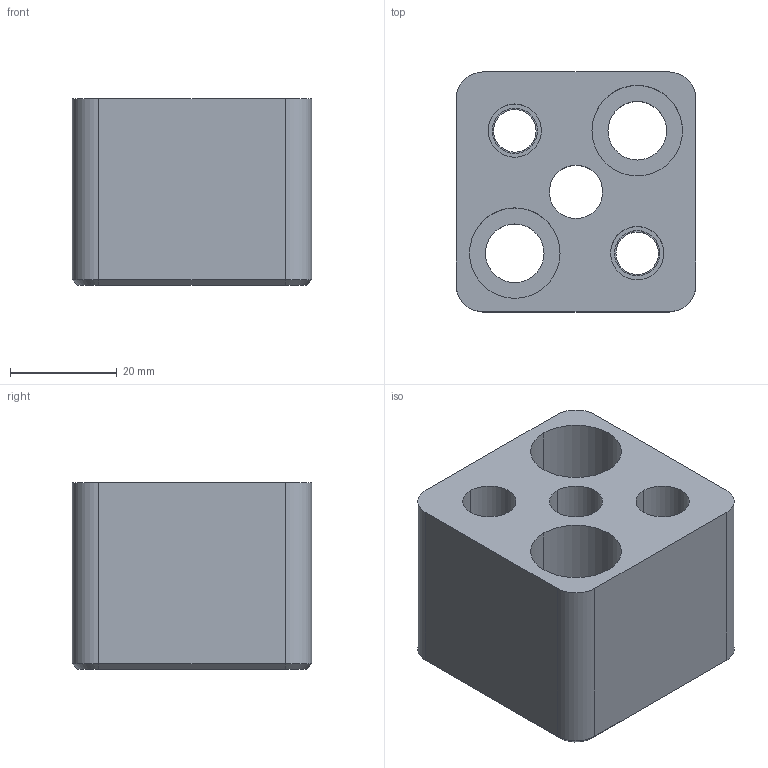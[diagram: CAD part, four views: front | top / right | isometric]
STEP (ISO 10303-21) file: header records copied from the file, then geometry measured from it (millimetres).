
FILE_DESCRIPTION(/* description */ (''),/* implementation_level */ '2;1');
FILE_NAME(/* name */ '3d_hsa-an10_04175_r00.stp',/* time_stamp */ '2011-01-10T14:14:37+09:00',/* author */ ('MISUMI'),/* organization */ (''),/* preprocessor_version */ 'ST-DEVELOPER v11',/* originating_system */ 'UGS - NX 5.0',/* authorisation */ '');
FILE_SCHEMA (('CONFIG_CONTROL_DESIGN'));
Length unit declared in the file: millimetre
Products named in the file (1): 3d_hsa-an10_04175_r00
Bounding box: 45 x 45 x 35 mm (x, y, z)
Volume: 50517.4 mm3; surface area: 15466 mm2
Topology: 1 solids, 1 shells, 51 faces, 116 edges, 74 vertices
Faces by surface type: cylinder 28, plane 17, cone 6
Entity records: 1563 total; most frequent: DIRECTION 277, CARTESIAN_POINT 257, ORIENTED_EDGE 232, EDGE_CURVE 116, AXIS2_PLACEMENT_3D 114, VERTEX_POINT 74, EDGE_LOOP 68, CIRCLE 62
